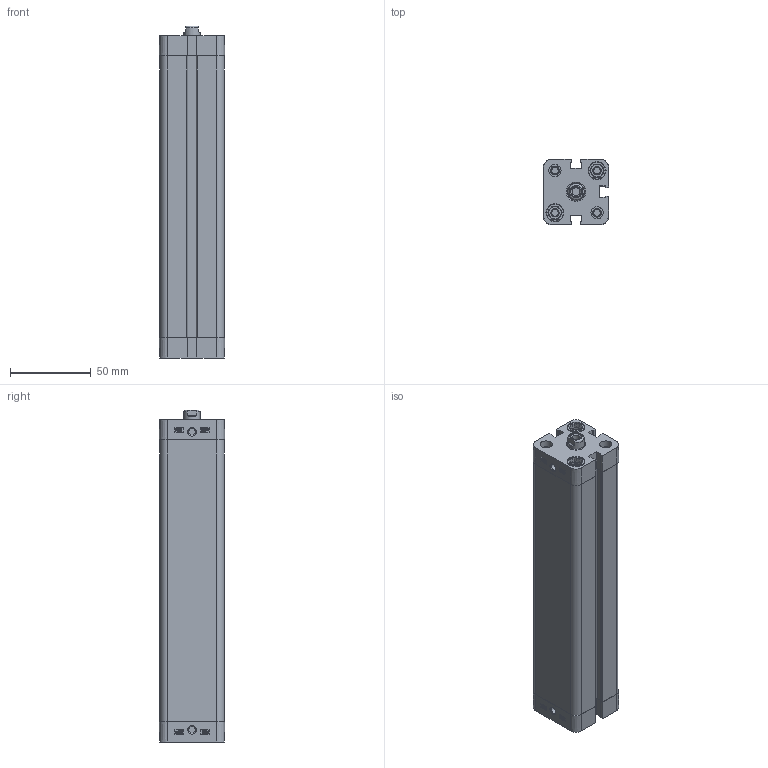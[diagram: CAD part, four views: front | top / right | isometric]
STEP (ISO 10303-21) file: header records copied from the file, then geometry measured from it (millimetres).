
FILE_DESCRIPTION(/* description */ ('Unknown'),/* implementation_level */ '2;1');
FILE_NAME(/* name */ 'ZIN 25_160',/* time_stamp */ '2025-01-24T12:57:17+01:00',/* author */ ('Unknown'),/* organization */ ('HAFNER Pneumatika Kft'),/* preprocessor_version */ 'ST-DEVELOPER v16.7',/* originating_system */ 'Solid Edge',/* authorisation */ 'Unknown');
FILE_SCHEMA (('AUTOMOTIVE_DESIGN {1 0 10303 214 3 1 1}'));
Length unit declared in the file: millimetre
Products named in the file (5): ZIN 25_160; Kit_1; Kit_2; Profilrohr; Kolbenstange
Assembly tree (4 placements, depth 2):
  ZIN 25_160
    Kit_1
    Kit_2
    Profilrohr
    Kolbenstange
Bounding box: 40.3 x 40.3 x 205 mm (x, y, z)
Volume: 224772.9 mm3; surface area: 72231.4 mm2
Topology: 4 solids, 10 shells, 583 faces, 1551 edges, 1026 vertices
Faces by surface type: plane 298, cylinder 141, bspline 84, cone 44, torus 16
Full cylindrical faces by diameter (mm): 4.134 x10, 4.917 x2, 7.5 x4, 8 x8, 9 x1, 10 x1, 10.48 x1, 10.9 x4, 11.1 x4, 11.4 x1, 12 x1, 13.84 x1, 14 x1, 25 x2
Entity records: 21648 total; most frequent: CARTESIAN_POINT 4139, ORIENTED_EDGE 2860, DIRECTION 2612, EDGE_CURVE 1430, VERTEX_POINT 995, LINE 880, VECTOR 880, AXIS2_PLACEMENT_3D 866
